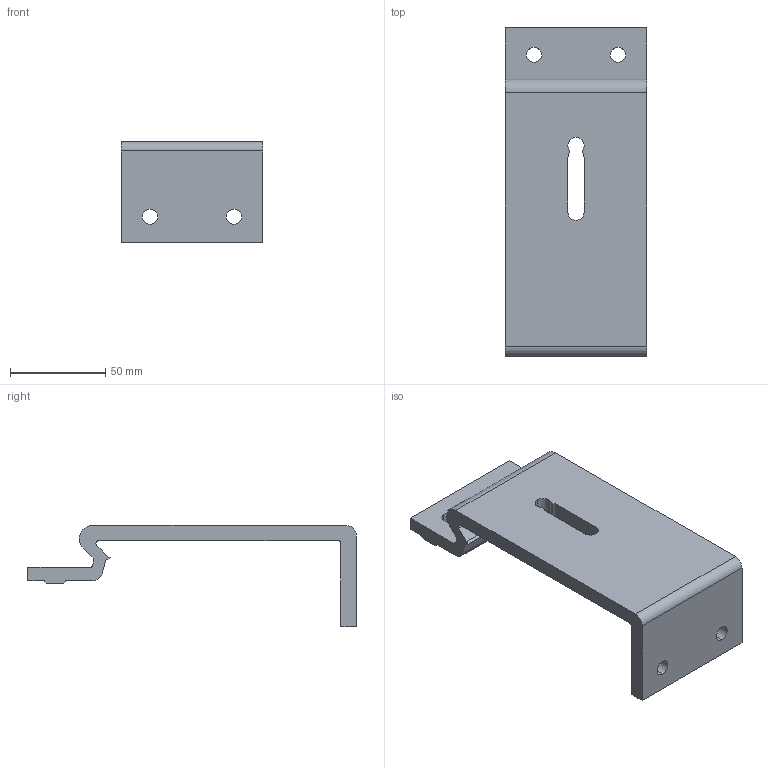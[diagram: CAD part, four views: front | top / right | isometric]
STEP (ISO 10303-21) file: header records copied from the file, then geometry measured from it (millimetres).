
FILE_DESCRIPTION (( 'STEP AP214' ), '1' );
FILE_NAME ('FABER - FAHBS 74D.STEP', '2017-04-05T12:15:27', ( '' ), ( '' ), 'SwSTEP 2.0', 'SolidWorks 2016', '' );
FILE_SCHEMA (( 'AUTOMOTIVE_DESIGN' ));
Length unit declared in the file: millimetre
Products named in the file (1): FABER - FAHBS 74D
Bounding box: 74 x 172.2 x 53 mm (x, y, z)
Volume: 136204.8 mm3; surface area: 41542.1 mm2
Topology: 1 solids, 1 shells, 46 faces, 132 edges, 88 vertices
Faces by surface type: plane 24, cylinder 22
Entity records: 1574 total; most frequent: DIRECTION 270, CARTESIAN_POINT 267, ORIENTED_EDGE 264, EDGE_CURVE 132, AXIS2_PLACEMENT_3D 91, LINE 88, VECTOR 88, VERTEX_POINT 88
